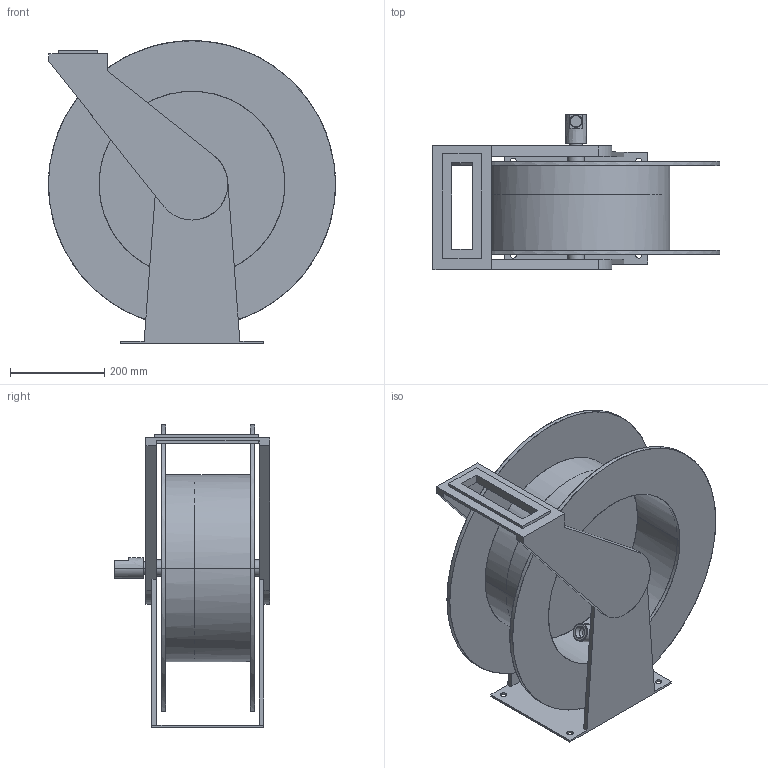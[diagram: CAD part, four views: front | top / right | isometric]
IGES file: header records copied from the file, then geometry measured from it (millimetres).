
Start section: Comment
Global section: file name: D83000 TW.igs; native system:  By UGS Corp.; preprocessor: XPlus GENERIC/IGES 3.0; author: Author; organization: Title; date: 20120802.153850; units: millimetre
Bounding box: 609.6 x 330.2 x 642.41 mm (x, y, z)
Surface area: 2056442.3 mm2 (no closed solid volume)
Topology: 0 solids, 0 shells, 97 faces, 484 edges, 484 vertices
Faces by surface type: bspline 97
